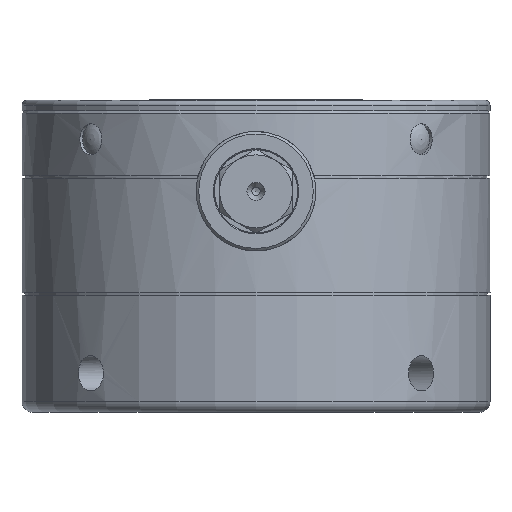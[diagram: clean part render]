
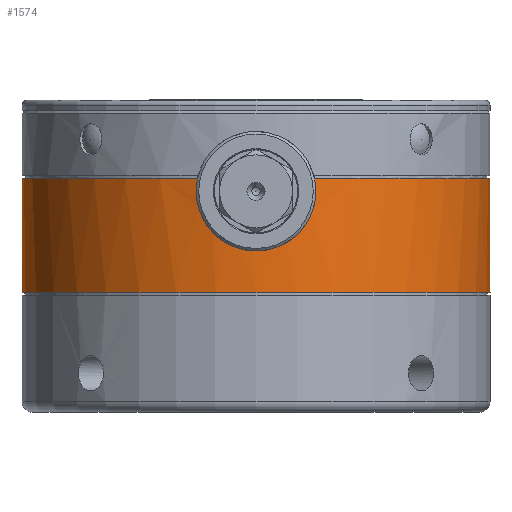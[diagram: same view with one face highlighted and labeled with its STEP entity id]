
A CAD part, left-side view. The second image highlights one B-rep face of the part: STEP entity #1574.
In plain terms, the highlighted cylindrical face has radius 45 mm (diameter 90 mm), a full revolution.
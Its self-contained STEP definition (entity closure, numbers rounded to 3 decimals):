
#1574 = ADVANCED_FACE( '', ( #3422, #3423 ), #3424, .T. );
#3422 = FACE_OUTER_BOUND( '', #5506, .T. );
#3423 = FACE_OUTER_BOUND( '', #5507, .T. );
#3424 = CYLINDRICAL_SURFACE( '', #5508, 45. );
#5506 = EDGE_LOOP( '', ( #10593 ) );
#5507 = EDGE_LOOP( '', ( #10594, #10595, #10596, #10597 ) );
#5508 = AXIS2_PLACEMENT_3D( '', #10598, #10599, #10600 );
#10593 = ORIENTED_EDGE( '', *, *, #13770, .T. );
#10594 = ORIENTED_EDGE( '', *, *, #12323, .F. );
#10595 = ORIENTED_EDGE( '', *, *, #12899, .F. );
#10596 = ORIENTED_EDGE( '', *, *, #12668, .F. );
#10597 = ORIENTED_EDGE( '', *, *, #13771, .F. );
#10598 = CARTESIAN_POINT( '', ( 0., 0., 54. ) );
#10599 = DIRECTION( '', ( 0., 0., -1. ) );
#10600 = DIRECTION( '', ( 1., 0., 0. ) );
#12323 = EDGE_CURVE( '', #14697, #14698, #14699, .T. );
#12668 = EDGE_CURVE( '', #15038, #15249, #15250, .T. );
#12899 = EDGE_CURVE( '', #15249, #14697, #15604, .T. );
#13770 = EDGE_CURVE( '', #16745, #16745, #16746, .T. );
#13771 = EDGE_CURVE( '', #14698, #15038, #16747, .T. );
#14697 = VERTEX_POINT( '', #18948 );
#14698 = VERTEX_POINT( '', #18949 );
#14699 = B_SPLINE_CURVE_WITH_KNOTS( '', 3, ( #18950, #18951, #18952, #18953, #18954, #18955, #18956, #18957, #18958, #18959, #18960, #18961, #18962, #18963, #18964, #18965, #18966, #18967, #18968, #18969, #18970, #18971 ), .UNSPECIFIED., .F., .F., ( 4, 2, 2, 2, 2, 2, 2, 2, 2, 2, 4 ), ( 0., 0.002, 0.003, 0.004, 0.006, 0.007, 0.008, 0.01, 0.012, 0.014, 0.016 ), .UNSPECIFIED. );
#15038 = VERTEX_POINT( '', #19893 );
#15249 = VERTEX_POINT( '', #20513 );
#15250 = B_SPLINE_CURVE_WITH_KNOTS( '', 3, ( #20514, #20515, #20516, #20517, #20518, #20519, #20520, #20521, #20522, #20523, #20524, #20525, #20526, #20527, #20528, #20529, #20530, #20531, #20532, #20533, #20534, #20535, #20536, #20537, #20538, #20539 ), .UNSPECIFIED., .F., .F., ( 4, 2, 2, 2, 2, 2, 2, 2, 2, 2, 2, 2, 4 ), ( 0., 0.002, 0.003, 0.004, 0.006, 0.007, 0.008, 0.01, 0.011, 0.012, 0.014, 0.015, 0.016 ), .UNSPECIFIED. );
#15604 = CIRCLE( '', #21315, 45. );
#16745 = VERTEX_POINT( '', #23951 );
#16746 = CIRCLE( '', #23952, 45. );
#16747 = B_SPLINE_CURVE_WITH_KNOTS( '', 3, ( #23953, #23954, #23955, #23956, #23957, #23958, #23959, #23960, #23961, #23962, #23963, #23964 ), .UNSPECIFIED., .F., .F., ( 4, 2, 2, 2, 2, 4 ), ( 0., 0.002, 0.003, 0.004, 0.006, 0.009 ), .UNSPECIFIED. );
#18948 = CARTESIAN_POINT( '', ( -43.578, 11.225, 45. ) );
#18949 = CARTESIAN_POINT( '', ( -44.8, 4.238, 31.809 ) );
#18950 = CARTESIAN_POINT( '', ( -43.578, 11.225, 45. ) );
#18951 = CARTESIAN_POINT( '', ( -43.539, 11.374, 44.332 ) );
#18952 = CARTESIAN_POINT( '', ( -43.516, 11.461, 43.659 ) );
#18953 = CARTESIAN_POINT( '', ( -43.505, 11.504, 42.646 ) );
#18954 = CARTESIAN_POINT( '', ( -43.505, 11.503, 42.307 ) );
#18955 = CARTESIAN_POINT( '', ( -43.513, 11.472, 41.628 ) );
#18956 = CARTESIAN_POINT( '', ( -43.521, 11.441, 41.286 ) );
#18957 = CARTESIAN_POINT( '', ( -43.558, 11.303, 40.271 ) );
#18958 = CARTESIAN_POINT( '', ( -43.597, 11.152, 39.612 ) );
#18959 = CARTESIAN_POINT( '', ( -43.675, 10.841, 38.649 ) );
#18960 = CARTESIAN_POINT( '', ( -43.704, 10.723, 38.332 ) );
#18961 = CARTESIAN_POINT( '', ( -43.768, 10.459, 37.706 ) );
#18962 = CARTESIAN_POINT( '', ( -43.803, 10.312, 37.398 ) );
#18963 = CARTESIAN_POINT( '', ( -43.913, 9.835, 36.501 ) );
#18964 = CARTESIAN_POINT( '', ( -43.995, 9.468, 35.938 ) );
#18965 = CARTESIAN_POINT( '', ( -44.165, 8.639, 34.879 ) );
#18966 = CARTESIAN_POINT( '', ( -44.255, 8.171, 34.38 ) );
#18967 = CARTESIAN_POINT( '', ( -44.428, 7.168, 33.482 ) );
#18968 = CARTESIAN_POINT( '', ( -44.513, 6.631, 33.08 ) );
#18969 = CARTESIAN_POINT( '', ( -44.668, 5.485, 32.37 ) );
#18970 = CARTESIAN_POINT( '', ( -44.74, 4.873, 32.061 ) );
#18971 = CARTESIAN_POINT( '', ( -44.8, 4.238, 31.809 ) );
#19893 = CARTESIAN_POINT( '', ( -44.8, -4.238, 31.809 ) );
#20513 = CARTESIAN_POINT( '', ( -43.578, -11.225, 45. ) );
#20514 = CARTESIAN_POINT( '', ( -44.8, -4.238, 31.809 ) );
#20515 = CARTESIAN_POINT( '', ( -44.74, -4.873, 32.061 ) );
#20516 = CARTESIAN_POINT( '', ( -44.669, -5.476, 32.365 ) );
#20517 = CARTESIAN_POINT( '', ( -44.553, -6.333, 32.895 ) );
#20518 = CARTESIAN_POINT( '', ( -44.513, -6.611, 33.084 ) );
#20519 = CARTESIAN_POINT( '', ( -44.429, -7.151, 33.488 ) );
#20520 = CARTESIAN_POINT( '', ( -44.386, -7.414, 33.703 ) );
#20521 = CARTESIAN_POINT( '', ( -44.254, -8.173, 34.382 ) );
#20522 = CARTESIAN_POINT( '', ( -44.166, -8.633, 34.872 ) );
#20523 = CARTESIAN_POINT( '', ( -44.039, -9.254, 35.665 ) );
#20524 = CARTESIAN_POINT( '', ( -43.997, -9.45, 35.938 ) );
#20525 = CARTESIAN_POINT( '', ( -43.916, -9.819, 36.504 ) );
#20526 = CARTESIAN_POINT( '', ( -43.877, -9.993, 36.798 ) );
#20527 = CARTESIAN_POINT( '', ( -43.766, -10.471, 37.697 ) );
#20528 = CARTESIAN_POINT( '', ( -43.702, -10.734, 38.318 ) );
#20529 = CARTESIAN_POINT( '', ( -43.624, -11.045, 39.28 ) );
#20530 = CARTESIAN_POINT( '', ( -43.601, -11.135, 39.606 ) );
#20531 = CARTESIAN_POINT( '', ( -43.562, -11.287, 40.269 ) );
#20532 = CARTESIAN_POINT( '', ( -43.546, -11.348, 40.608 ) );
#20533 = CARTESIAN_POINT( '', ( -43.509, -11.487, 41.621 ) );
#20534 = CARTESIAN_POINT( '', ( -43.501, -11.518, 42.297 ) );
#20535 = CARTESIAN_POINT( '', ( -43.512, -11.476, 43.312 ) );
#20536 = CARTESIAN_POINT( '', ( -43.52, -11.447, 43.65 ) );
#20537 = CARTESIAN_POINT( '', ( -43.543, -11.359, 44.327 ) );
#20538 = CARTESIAN_POINT( '', ( -43.558, -11.299, 44.666 ) );
#20539 = CARTESIAN_POINT( '', ( -43.578, -11.225, 45. ) );
#21315 = AXIS2_PLACEMENT_3D( '', #25277, #25278, #25279 );
#23951 = CARTESIAN_POINT( '', ( 45., 0., 23. ) );
#23952 = AXIS2_PLACEMENT_3D( '', #25944, #25945, #25946 );
#23953 = CARTESIAN_POINT( '', ( -44.8, 4.238, 31.809 ) );
#23954 = CARTESIAN_POINT( '', ( -44.864, 3.562, 31.541 ) );
#23955 = CARTESIAN_POINT( '', ( -44.914, 2.87, 31.341 ) );
#23956 = CARTESIAN_POINT( '', ( -44.965, 1.81, 31.138 ) );
#23957 = CARTESIAN_POINT( '', ( -44.978, 1.453, 31.086 ) );
#23958 = CARTESIAN_POINT( '', ( -44.996, 0.73, 31.017 ) );
#23959 = CARTESIAN_POINT( '', ( -45., 0.364, 31. ) );
#23960 = CARTESIAN_POINT( '', ( -45., -0.724, 31. ) );
#23961 = CARTESIAN_POINT( '', ( -44.983, -1.441, 31.068 ) );
#23962 = CARTESIAN_POINT( '', ( -44.915, -2.858, 31.337 ) );
#23963 = CARTESIAN_POINT( '', ( -44.864, -3.561, 31.541 ) );
#23964 = CARTESIAN_POINT( '', ( -44.8, -4.238, 31.809 ) );
#25277 = CARTESIAN_POINT( '', ( 0., 0., 45. ) );
#25278 = DIRECTION( '', ( 0., 0., 1. ) );
#25279 = DIRECTION( '', ( 1., 0., 0. ) );
#25944 = CARTESIAN_POINT( '', ( 0., 0., 23. ) );
#25945 = DIRECTION( '', ( 0., 0., 1. ) );
#25946 = DIRECTION( '', ( 1., 0., 0. ) );
